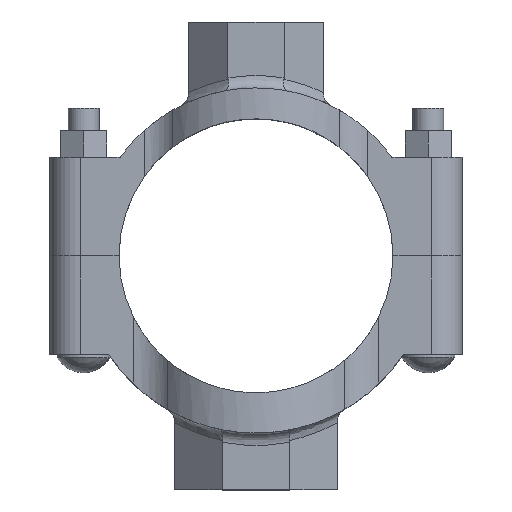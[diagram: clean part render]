
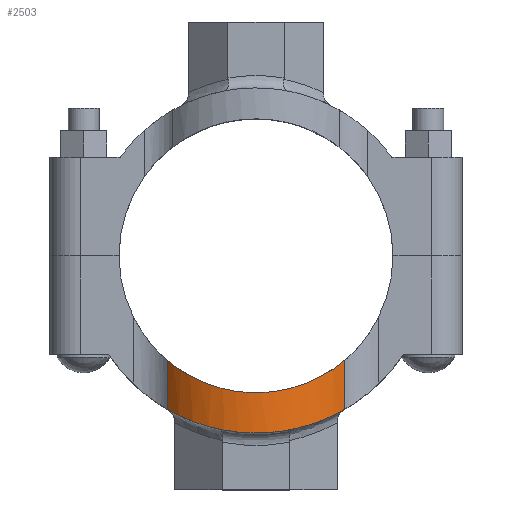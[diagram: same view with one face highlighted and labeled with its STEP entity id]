
A CAD part, top view. The second image highlights one B-rep face of the part: STEP entity #2503.
In plain terms, the highlighted cylindrical face has radius 58.801 mm (diameter 117.602 mm), a partial arc.
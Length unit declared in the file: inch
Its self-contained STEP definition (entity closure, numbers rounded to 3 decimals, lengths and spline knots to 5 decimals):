
#96=B_SPLINE_CURVE_WITH_KNOTS('',3,(#4764,#4765,#4766,#4767,#4768,#4769,
#4770,#4771,#4772,#4773,#4774,#4775,#4776,#4777,#4778,#4779,#4780,#4781,
#4782,#4783,#4784,#4785),.UNSPECIFIED.,.F.,.F.,(4,2,2,2,2,2,2,2,2,2,4),
(22.35035,23.00779,24.15185,25.29592,26.43998,
27.58405,28.72811,29.87217,31.01624,32.1603,
32.81774),.UNSPECIFIED.);
#107=B_SPLINE_CURVE_WITH_KNOTS('',3,(#5097,#5098,#5099,#5100,#5101,#5102,
#5103,#5104,#5105,#5106,#5107,#5108,#5109,#5110,#5111,#5112,#5113,#5114,
#5115,#5116,#5117,#5118),.UNSPECIFIED.,.F.,.F.,(4,2,2,2,2,2,2,2,2,2,4),
(4.19691,4.89556,6.07013,7.24471,8.41929,
9.59386,10.76844,11.94301,13.11759,14.29216,
14.99081),.UNSPECIFIED.);
#157=CYLINDRICAL_SURFACE('',#2789,2.315);
#305=FACE_OUTER_BOUND('',#457,.T.);
#457=EDGE_LOOP('',(#2139,#2140,#2141,#2142));
#642=LINE('',#5183,#826);
#643=LINE('',#5185,#827);
#826=VECTOR('',#3406,0.3937);
#827=VECTOR('',#3409,0.3937);
#1088=VERTEX_POINT('',#4750);
#1089=VERTEX_POINT('',#4763);
#1136=VERTEX_POINT('',#5083);
#1137=VERTEX_POINT('',#5096);
#1396=EDGE_CURVE('',#1089,#1088,#96,.T.);
#1458=EDGE_CURVE('',#1137,#1136,#107,.T.);
#1486=EDGE_CURVE('',#1136,#1089,#642,.T.);
#1487=EDGE_CURVE('',#1137,#1088,#643,.T.);
#2139=ORIENTED_EDGE('',*,*,#1458,.T.);
#2140=ORIENTED_EDGE('',*,*,#1486,.T.);
#2141=ORIENTED_EDGE('',*,*,#1396,.T.);
#2142=ORIENTED_EDGE('',*,*,#1487,.F.);
#2503=ADVANCED_FACE('',(#305),#157,.T.);
#2789=AXIS2_PLACEMENT_3D('',#5184,#3407,#3408);
#3406=DIRECTION('',(0.,1.,0.));
#3407=DIRECTION('center_axis',(0.,1.,0.));
#3408=DIRECTION('ref_axis',(-0.779,0.,0.628));
#3409=DIRECTION('',(0.,1.,0.));
#4750=CARTESIAN_POINT('',(-1.80242,3.11629,1.45276));
#4763=CARTESIAN_POINT('',(1.80242,3.11629,1.45276));
#4764=CARTESIAN_POINT('Ctrl Pts',(1.80242,3.11629,1.45276));
#4765=CARTESIAN_POINT('Ctrl Pts',(1.74981,3.14672,1.51803));
#4766=CARTESIAN_POINT('Ctrl Pts',(1.69434,3.17701,1.57957));
#4767=CARTESIAN_POINT('Ctrl Pts',(1.5371,3.25729,1.73681));
#4768=CARTESIAN_POINT('Ctrl Pts',(1.42394,3.30909,1.83142));
#4769=CARTESIAN_POINT('Ctrl Pts',(1.1758,3.40517,1.9998));
#4770=CARTESIAN_POINT('Ctrl Pts',(1.04081,3.44938,2.07357));
#4771=CARTESIAN_POINT('Ctrl Pts',(0.7567,3.52263,2.19326));
#4772=CARTESIAN_POINT('Ctrl Pts',(0.60728,3.5517,2.23928));
#4773=CARTESIAN_POINT('Ctrl Pts',(0.304,3.5904,2.30016));
#4774=CARTESIAN_POINT('Ctrl Pts',(0.15014,3.6,2.315));
#4775=CARTESIAN_POINT('Ctrl Pts',(-0.15014,3.6,2.315));
#4776=CARTESIAN_POINT('Ctrl Pts',(-0.304,3.5904,2.30016));
#4777=CARTESIAN_POINT('Ctrl Pts',(-0.60728,3.5517,2.23928));
#4778=CARTESIAN_POINT('Ctrl Pts',(-0.7567,3.52263,2.19326));
#4779=CARTESIAN_POINT('Ctrl Pts',(-1.04081,3.44938,2.07357));
#4780=CARTESIAN_POINT('Ctrl Pts',(-1.1758,3.40517,1.9998));
#4781=CARTESIAN_POINT('Ctrl Pts',(-1.42394,3.30909,1.83142));
#4782=CARTESIAN_POINT('Ctrl Pts',(-1.5371,3.25729,1.73681));
#4783=CARTESIAN_POINT('Ctrl Pts',(-1.69434,3.17701,1.57957));
#4784=CARTESIAN_POINT('Ctrl Pts',(-1.74981,3.14672,1.51803));
#4785=CARTESIAN_POINT('Ctrl Pts',(-1.80242,3.11629,1.45276));
#5083=CARTESIAN_POINT('',(1.80242,2.1185,1.45276));
#5096=CARTESIAN_POINT('',(-1.80242,2.1185,1.45276));
#5097=CARTESIAN_POINT('Ctrl Pts',(-1.80242,2.1185,1.45276));
#5098=CARTESIAN_POINT('Ctrl Pts',(-1.75003,2.16307,1.51776));
#5099=CARTESIAN_POINT('Ctrl Pts',(-1.6946,2.20685,1.57931));
#5100=CARTESIAN_POINT('Ctrl Pts',(-1.54004,2.31935,1.73386));
#5101=CARTESIAN_POINT('Ctrl Pts',(-1.4296,2.39001,1.82684));
#5102=CARTESIAN_POINT('Ctrl Pts',(-1.18548,2.52002,1.99393));
#5103=CARTESIAN_POINT('Ctrl Pts',(-1.05178,2.57934,2.06803));
#5104=CARTESIAN_POINT('Ctrl Pts',(-0.76823,2.67751,2.18925));
#5105=CARTESIAN_POINT('Ctrl Pts',(-0.61804,2.71643,2.23647));
#5106=CARTESIAN_POINT('Ctrl Pts',(-0.311,2.76844,2.29936));
#5107=CARTESIAN_POINT('Ctrl Pts',(-0.15414,2.7815,2.315));
#5108=CARTESIAN_POINT('Ctrl Pts',(0.15414,2.7815,2.315));
#5109=CARTESIAN_POINT('Ctrl Pts',(0.311,2.76844,2.29936));
#5110=CARTESIAN_POINT('Ctrl Pts',(0.61804,2.71643,2.23647));
#5111=CARTESIAN_POINT('Ctrl Pts',(0.76823,2.67751,2.18925));
#5112=CARTESIAN_POINT('Ctrl Pts',(1.05178,2.57934,2.06803));
#5113=CARTESIAN_POINT('Ctrl Pts',(1.18548,2.52002,1.99393));
#5114=CARTESIAN_POINT('Ctrl Pts',(1.4296,2.39001,1.82684));
#5115=CARTESIAN_POINT('Ctrl Pts',(1.54004,2.31935,1.73386));
#5116=CARTESIAN_POINT('Ctrl Pts',(1.6946,2.20685,1.57931));
#5117=CARTESIAN_POINT('Ctrl Pts',(1.75003,2.16307,1.51776));
#5118=CARTESIAN_POINT('Ctrl Pts',(1.80242,2.1185,1.45276));
#5183=CARTESIAN_POINT('',(1.80242,0.,1.45276));
#5184=CARTESIAN_POINT('Origin',(0.,0.,0.));
#5185=CARTESIAN_POINT('',(-1.80242,0.,1.45276));
